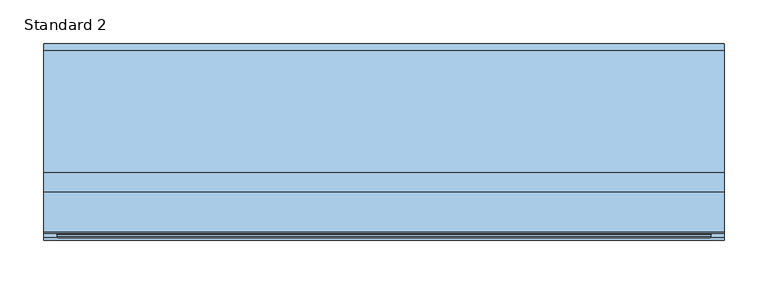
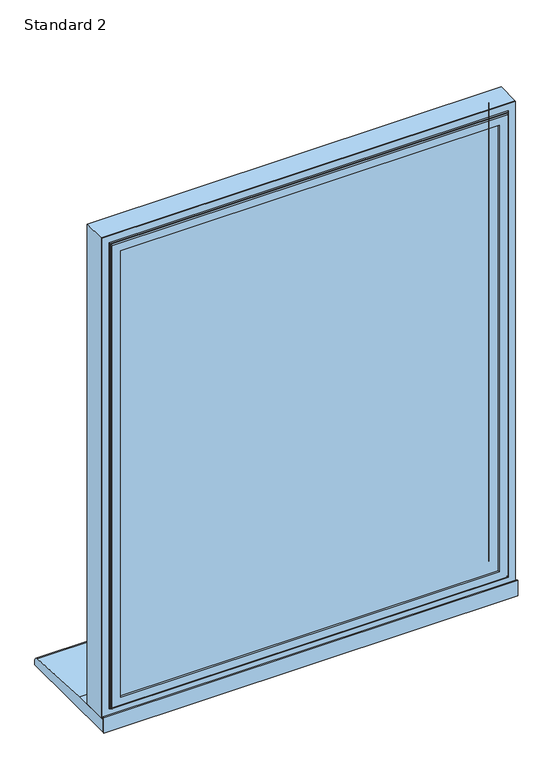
"""IFC4 building model written with IfcOpenShell, lengths in millimetres: window geometry, SMARTS_AlithermHeritage : Standard 2."""

from ifc_helpers import new_model, si_unit, point, frame, frame_2d, origin, place, context, project, spatial, polyline, circle_curve, ellipse_curve, trimmed, segment, composite_curve, outline, extrude, faceted_brep, source, transform, mapped, element, save
from ifc_brep_helpers import plane_surface, cylinder_surface, revolved_surface, advanced_brep


def standard_2_b24fb9ff(model_context):
    return source(origin(), model_context, "Body", "SolidModel", [
        extrude(outline(polyline([(1590.0, 390.0), (1590.0, -390.0), (635.0, -390.0), (635.0, 390.0), (1590.0, 390.0)]), holes=[polyline([(652.7000182, 372.2999818), (652.7000182, -372.2999818), (1572.2999818, -372.2999818), (1572.2999818, 372.2999818), (652.7000182, 372.2999818)])]), frame((0.0, 50.279857, 0.0), z_axis=(0.0, 1.0, 0.0), x_axis=(0.0, 0.0, 1.0)), (0.0, 0.0, 1.0), 44.9999962),
        advanced_brep(
        [(357.0, 43.2798432, 1557.0), (357.0, 47.2798432, 1557.0), (357.0, 47.2798432, 668.0), (357.0, 43.2798432, 668.0), (390.0, 50.279857, 1590.0), (390.0, 48.279857, 1590.0), (390.0, 48.279857, 635.0), (390.0, 50.279857, 635.0), (372.4999818, 43.2798432, 1572.4999818), (-372.4999818, 43.2798432, 1572.4999818), (-372.4999818, 43.2798432, 652.5000182), (372.4999818, 43.2798432, 652.5000182), (-357.0, 43.2798432, 668.0), (-357.0, 43.2798432, 1557.0), (-390.0, 50.279857, 1590.0), (-390.0, 48.279857, 1590.0), (-390.0, 50.279857, 635.0), (372.2999818, 50.279857, 1572.2999818), (-372.2999818, 50.279857, 1572.2999818), (-372.2999818, 50.279857, 652.7000182), (372.2999818, 50.279857, 652.7000182), (-357.0, 47.2798432, 1557.0), (-357.0, 47.2798432, 668.0), (-390.0, 48.279857, 635.0), (-372.2999818, 47.2798432, 1572.2999818), (372.2999818, 47.2798432, 1572.2999818), (372.2999818, 47.2798432, 652.7000182), (374.4999818, 46.779857, 650.5000182), (374.4999818, 45.2798432, 650.5000182), (-374.4999818, 45.2798432, 650.5000182), (-374.4999818, 46.779857, 650.5000182), (374.4999818, 46.779857, 1574.4999818), (374.4999818, 45.2798432, 1574.4999818), (-372.2999818, 47.2798432, 652.7000182), (-374.4999818, 45.2798432, 1574.4999818), (-374.4999818, 46.779857, 1574.4999818), (375.9999818, 48.279857, 1575.9999818), (375.9999818, 48.279857, 649.0000182), (-375.9999818, 48.279857, 649.0000182), (-375.9999818, 48.279857, 1575.9999818)],
        [
            (0, 1),
            (1, 2),
            (2, 3),
            (3, 0),
            (4, 5),
            (5, 6),
            (6, 7),
            (7, 4),
            (8, 9),
            (9, 10),
            (10, 11),
            (11, 8),
            (3, 12),
            (12, 13),
            (13, 0),
            (14, 15),
            (15, 5),
            (4, 14),
            (7, 16),
            (16, 14),
            (17, 18),
            (18, 19),
            (19, 20),
            (20, 17),
            (13, 21),
            (21, 1),
            (2, 22),
            (22, 12),
            (22, 21),
            (6, 23),
            (23, 16),
            (23, 15),
            (24, 18),
            (17, 25),
            (25, 24),
            (20, 26),
            (26, 25),
            (27, 28),
            (28, 29),
            (29, 30),
            (30, 27),
            (31, 32),
            (32, 28),
            (27, 31),
            (19, 33),
            (33, 26),
            (24, 33),
            (29, 34),
            (34, 35),
            (35, 30),
            (34, 32),
            (31, 35),
            (36, 31, ellipse_curve(frame((375.9999818, 46.779857, 1575.9999818), z_axis=(-0.7071067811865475, 0.0, 0.7071067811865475), x_axis=(-0.7071067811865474, 0.0, -0.7071067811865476)), 2.1213203, 1.5)),
            (27, 37, ellipse_curve(frame((375.9999818, 46.779857, 649.0000182), z_axis=(-0.7071067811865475, 0.0, -0.7071067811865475), x_axis=(0.7071067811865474, 0.0, -0.7071067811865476)), 2.1213203, 1.5)),
            (37, 36),
            (30, 38, ellipse_curve(frame((-375.9999818, 46.779857, 649.0000182), z_axis=(-0.7071067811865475, 0.0, 0.7071067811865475), x_axis=(-0.7071067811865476, 0.0, -0.7071067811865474)), 2.1213203, 1.5)),
            (38, 37),
            (35, 39, ellipse_curve(frame((-375.9999818, 46.779857, 1575.9999818), z_axis=(0.7071067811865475, 0.0, 0.7071067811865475), x_axis=(-0.7071067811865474, 0.0, 0.7071067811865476)), 2.1213203, 1.5)),
            (39, 38),
            (36, 39),
            (32, 8, ellipse_curve(frame((372.4999818, 45.2798432, 1572.4999818), z_axis=(0.7071067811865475, 0.0, -0.7071067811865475), x_axis=(0.7071067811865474, 0.0, 0.7071067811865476)), 2.8284271, 2.0)),
            (11, 28, ellipse_curve(frame((372.4999818, 45.2798432, 652.5000182), z_axis=(0.7071067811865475, 0.0, 0.7071067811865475), x_axis=(-0.7071067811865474, 0.0, 0.7071067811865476)), 2.8284271, 2.0)),
            (10, 29, ellipse_curve(frame((-372.4999818, 45.2798432, 652.5000182), z_axis=(0.7071067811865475, 0.0, -0.7071067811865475), x_axis=(0.7071067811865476, 0.0, 0.7071067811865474)), 2.8284271, 2.0)),
            (9, 34, ellipse_curve(frame((-372.4999818, 45.2798432, 1572.4999818), z_axis=(-0.7071067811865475, 0.0, -0.7071067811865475), x_axis=(0.7071067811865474, 0.0, -0.7071067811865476)), 2.8284271, 2.0)),
        ],
        [
            plane_surface(frame((357.0, 47.2798432, 1557.0), z_axis=(-1.0, 0.0, 0.0), x_axis=(0.0, 0.0, -1.0))),
            plane_surface(frame((390.0, 48.279857, 1590.0), z_axis=(1.0, 0.0, 0.0), x_axis=(0.0, 0.0, -1.0))),
            plane_surface(frame((-357.0, 43.2798432, 1557.0), z_axis=(0.0, -1.0, 0.0), x_axis=(1.0, 0.0, 0.0))),
            plane_surface(frame((-390.0, 48.279857, 1590.0), z_axis=(0.0, 0.0, 1.0), x_axis=(1.0, 0.0, 0.0))),
            plane_surface(frame((-390.0, 50.279857, 1590.0), z_axis=(0.0, 1.0, 0.0), x_axis=(1.0, 0.0, 0.0))),
            plane_surface(frame((-357.0, 47.2798432, 1557.0), z_axis=(0.0, 0.0, -1.0), x_axis=(1.0, 0.0, 0.0))),
            plane_surface(frame((357.0, 47.2798432, 668.0), z_axis=(0.0, 0.0, 1.0), x_axis=(-1.0, 0.0, 0.0))),
            plane_surface(frame((-357.0, 47.2798432, 668.0), z_axis=(1.0, 0.0, 0.0), x_axis=(0.0, 0.0, 1.0))),
            plane_surface(frame((390.0, 48.279857, 635.0), z_axis=(0.0, 0.0, -1.0), x_axis=(-1.0, 0.0, 0.0))),
            plane_surface(frame((-390.0, 48.279857, 635.0), z_axis=(-1.0, 0.0, 0.0), x_axis=(0.0, 0.0, 1.0))),
            plane_surface(frame((-372.2999818, 50.279857, 1572.2999818), z_axis=(0.0, 0.0, -1.0), x_axis=(1.0, 0.0, 0.0))),
            plane_surface(frame((372.2999818, 50.279857, 1572.2999818), z_axis=(-1.0, 0.0, 0.0), x_axis=(0.0, 0.0, -1.0))),
            plane_surface(frame((374.4999818, 45.2798432, 650.5000182), z_axis=(0.0, 0.0, -1.0), x_axis=(-1.0, 0.0, 0.0))),
            plane_surface(frame((374.4999818, 45.2798432, 1574.4999818), z_axis=(1.0, 0.0, 0.0), x_axis=(0.0, 0.0, -1.0))),
            plane_surface(frame((372.2999818, 50.279857, 652.7000182), z_axis=(0.0, 0.0, 1.0), x_axis=(-1.0, 0.0, 0.0))),
            plane_surface(frame((-372.2999818, 50.279857, 652.7000182), z_axis=(1.0, 0.0, 0.0), x_axis=(0.0, 0.0, 1.0))),
            plane_surface(frame((-374.4999818, 45.2798432, 650.5000182), z_axis=(-1.0, 0.0, 0.0), x_axis=(0.0, 0.0, 1.0))),
            plane_surface(frame((-372.2999818, 47.2798432, 1572.2999818), z_axis=(0.0, 1.0, 0.0), x_axis=(1.0, 0.0, 0.0))),
            plane_surface(frame((-374.4999818, 45.2798432, 1574.4999818), z_axis=(0.0, 0.0, 1.0), x_axis=(1.0, 0.0, 0.0))),
            revolved_surface(polyline([(374.4999818, 46.779857, 647.5000182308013), (374.4999818, 46.779857, 1577.4999817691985)]), (375.9999818, 46.779857, 1590.0), (0.0, 0.0, -1.0)),
            revolved_surface(polyline([(-377.4999817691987, 46.779857, 650.5000182), (377.49998176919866, 46.779857, 650.5000182)]), (390.0, 46.779857, 649.0000182), (-1.0, 0.0, 0.0)),
            revolved_surface(polyline([(-374.4999818, 46.779857, 1577.4999817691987), (-374.4999818, 46.779857, 647.5000182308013)]), (-375.9999818, 46.779857, 635.0), (0.0, 0.0, 1.0)),
            revolved_surface(polyline([(377.4999817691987, 46.779857, 1574.4999818), (-377.49998176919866, 46.779857, 1574.4999818)]), (-390.0, 46.779857, 1575.9999818), (1.0, 0.0, 0.0)),
            plane_surface(frame((-375.9999818, 48.279857, 1575.9999818), z_axis=(0.0, -1.0, 0.0), x_axis=(1.0, 0.0, 0.0))),
            cylinder_surface(frame((372.4999818, 45.2798432, 1590.0), z_axis=(0.0, 0.0, 1.0), x_axis=(-1.0, 0.0, 0.0)), 2.0),
            cylinder_surface(frame((390.0, 45.2798432, 652.5000182), z_axis=(1.0, 0.0, 0.0), x_axis=(0.0, 0.0, 1.0)), 2.0),
            cylinder_surface(frame((-372.4999818, 45.2798432, 635.0), z_axis=(0.0, 0.0, -1.0), x_axis=(1.0, 0.0, 0.0)), 2.0),
            cylinder_surface(frame((-390.0, 45.2798432, 1572.4999818), z_axis=(-1.0, 0.0, 0.0), x_axis=(0.0, 0.0, -1.0)), 2.0),
        ],
        [
            (0, [[1, 2, 3, 4]]),
            (1, [[5, 6, 7, 8]]),
            (2, [[9, 10, 11, 12], [13, 14, 15, -4]]),
            (3, [[16, 17, -5, 18]]),
            (4, [[19, 20, -18, -8], [21, 22, 23, 24]]),
            (5, [[25, 26, -1, -15]]),
            (6, [[-3, 27, 28, -13]]),
            (7, [[-28, 29, -25, -14]]),
            (8, [[-7, 30, 31, -19]]),
            (9, [[-31, 32, -16, -20]]),
            (10, [[33, -21, 34, 35]]),
            (11, [[-34, -24, 36, 37]]),
            (12, [[38, 39, 40, 41]]),
            (13, [[42, 43, -38, 44]]),
            (14, [[-36, -23, 45, 46]]),
            (15, [[-45, -22, -33, 47]]),
            (16, [[-40, 48, 49, 50]]),
            (17, [[-46, -47, -35, -37], [-26, -29, -27, -2]]),
            (18, [[-49, 51, -42, 52]]),
            (19, [[53, -44, 54, 55]]),
            (20, [[-54, -41, 56, 57]]),
            (21, [[-56, -50, 58, 59]]),
            (22, [[-58, -52, -53, 60]]),
            (23, [[-17, -32, -30, -6], [-57, -59, -60, -55]]),
            (24, [[61, -12, 62, -43]]),
            (25, [[-62, -11, 63, -39]]),
            (26, [[-63, -10, 64, -48]]),
            (27, [[-64, -9, -61, -51]]),
        ],
    ),
        extrude(outline(polyline([(-367.0, 75.2798432), (367.0, 75.2798432), (367.0, 71.2798432), (-367.0, 71.2798432), (-367.0, 75.2798432)])), frame((0.0, 0.0, 658.0), z_axis=(0.0, 0.0, 1.0), x_axis=(1.0, 0.0, 0.0)), (0.0, 0.0, 1.0), 909.0),
        extrude(outline(polyline([(-367.0, 55.2798432), (367.0, 55.2798432), (367.0, 51.2798432), (-367.0, 51.2798432), (-367.0, 55.2798432)])), frame((0.0, 0.0, 658.0), z_axis=(0.0, 0.0, 1.0), x_axis=(1.0, 0.0, 0.0)), (0.0, 0.0, 1.0), 909.0),
        extrude(outline(polyline([(1567.0, -367.0), (658.0, -367.0), (658.0, 367.0), (1567.0, 367.0), (1567.0, -367.0)]), holes=[polyline([(1557.0, 357.0), (668.0, 357.0), (668.0, -357.0), (1557.0, -357.0), (1557.0, 357.0)])]), frame((0.0, 55.2798432, 0.0), z_axis=(0.0, 1.0, 0.0), x_axis=(0.0, 0.0, 1.0)), (0.0, 0.0, 1.0), 16.0),
        faceted_brep([(366.8148849, 95.2798432, 1566.8148849), (357.0, 78.2798098, 1557.0), (-357.0, 78.2798098, 1557.0), (-366.8148849, 95.2798432, 1566.8148849), (372.3702676, 78.2798098, 1572.3702676), (372.3702676, 95.2798432, 1572.3702676), (-372.3702676, 95.2798432, 1572.3702676), (-372.3702676, 78.2798098, 1572.3702676), (-372.3702676, 78.2798098, 652.6297324), (-372.3702676, 95.2798432, 652.6297324), (372.3702676, 95.2798432, 652.6297324), (372.3702676, 78.2798098, 652.6297324), (-366.8148849, 95.2798432, 658.1851151), (366.8148849, 95.2798432, 658.1851151), (357.0, 78.2798098, 668.0), (-357.0, 78.2798098, 668.0)], [[[0, 1, 2, 3]], [[4, 5, 6, 7]], [[8, 9, 10, 11]], [[5, 10, 9, 6], [3, 12, 13, 0]], [[7, 8, 11, 4], [1, 14, 15, 2]], [[3, 2, 15, 12]], [[7, 6, 9, 8]], [[12, 15, 14, 13]], [[13, 14, 1, 0]], [[11, 10, 5, 4]]]),
        extrude(outline(polyline([(390.0, 43.2798432), (390.0, 40.7798432), (-390.0, 40.7798432), (-390.0, 43.2798432), (390.0, 43.2798432)])), frame((0.0, 0.0, 610.0), z_axis=(0.0, 0.0, 1.0), x_axis=(1.0, 0.0, 0.0)), (0.0, 0.0, 1.0), 31.0),
        extrude(outline(composite_curve([segment(polyline([(265.7798432, 610.0), (43.2798432, 610.0), (43.2798432, 635.0), (118.7798432, 635.0), (258.4770891, 625.9276664)]), True, "CONTINUOUS"), segment(trimmed(circle_curve(frame_2d((257.7798432, 617.9581088)), 8.0), [point((258.4770891, 625.9276664))], [point((265.7798432, 617.9581088))], False, "CARTESIAN"), True, "CONTINUOUS"), segment(polyline([(265.7798432, 617.9581088), (265.7798432, 610.0)]), True, "CONTINUOUS")], self_intersect=False)), frame((-390.0, 0.0, 0.0), z_axis=(1.0, 0.0, 0.0), x_axis=(0.0, 1.0, 0.0)), (0.0, 0.0, 1.0), 780.0),
    ])


if __name__ == "__main__":
    model = new_model("IFC4")
    model_context = context("Model", 3, world=origin())
    ifc_project = project(units=[si_unit("LENGTHUNIT", "METRE", prefix="MILLI")], contexts=[model_context])
    site = spatial("IfcSite", under=ifc_project)
    building = spatial("IfcBuilding", under=site)
    placement = place(None, origin())
    standard_2_shape = standard_2_b24fb9ff(model_context)
    element("IfcWindow", 1, ObjectType="SMARTS_AlithermHeritage : Standard 2", at=placement, inside=building, context=model_context, shape_type="MappedRepresentation", body=[
        mapped(standard_2_shape, transform((0.0, 0.0, 0.0), x_axis=(1.0, 0.0, 0.0), y_axis=(0.0, 1.0, 0.0), z_axis=(0.0, 0.0, 1.0))),
    ])
    save(model, "model.ifc")
